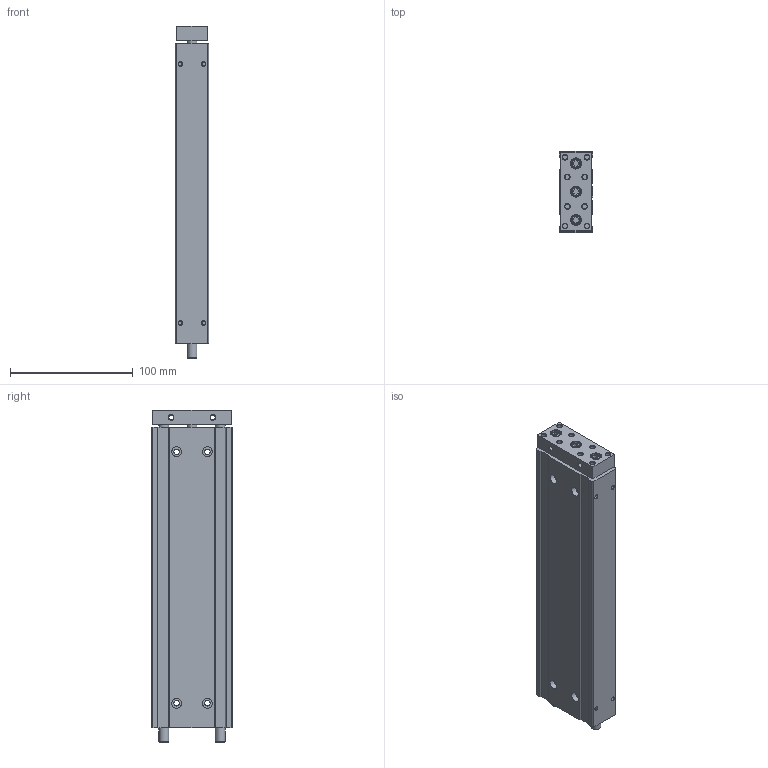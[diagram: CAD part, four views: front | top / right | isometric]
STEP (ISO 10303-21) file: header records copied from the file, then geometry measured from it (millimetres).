
FILE_DESCRIPTION((''),'2;1');
FILE_NAME('I:\3D電子目錄\氣缸\TB(U)\TB(U)16\TB(U)16\TB(U)16x200.stp','2007-08-06T08:10:48',('Administrator'),(''),'Autodesk Inventor 2008','Autodesk Inventor 2008','');
FILE_SCHEMA(('AUTOMOTIVE_DESIGN { 1 0 10303 214 1 1 1 1 }'));
Length unit declared in the file: millimetre
Products named in the file (1): TB(U)16X200
Bounding box: 27 x 66 x 270.5 mm (x, y, z)
Volume: 431006.1 mm3; surface area: 66144.4 mm2
Topology: 1 solids, 1 shells, 184 faces, 396 edges, 252 vertices
Faces by surface type: plane 84, cylinder 52, cone 37, bspline 8, torus 3
Full cylindrical faces by diameter (mm): 3 x4, 4 x10, 4.4 x4, 5 x6, 7.5 x3, 8 x13, 8.5 x3, 15 x2, 18 x1
Entity records: 4640 total; most frequent: CARTESIAN_POINT 815, DIRECTION 808, ORIENTED_EDGE 604, EDGE_LOOP 344, AXIS2_PLACEMENT_3D 329, EDGE_CURVE 302, VERTEX_POINT 248, FACE_OUTER_BOUND 184
